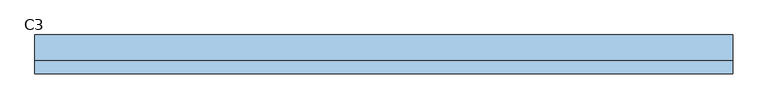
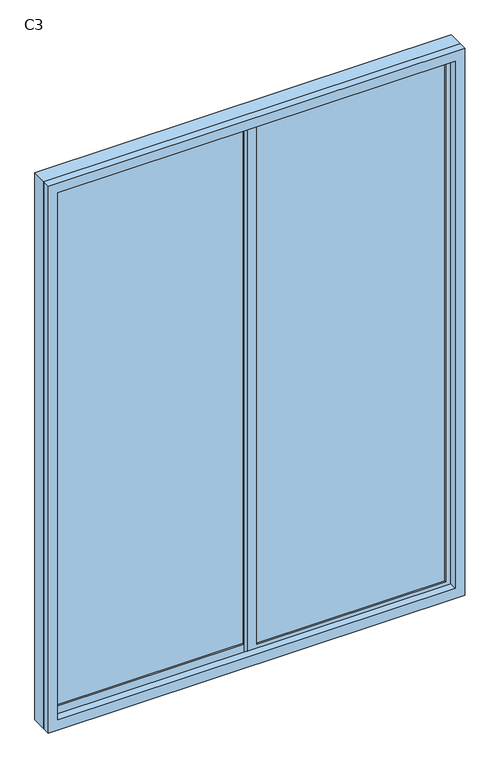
"""IFC4 building model written with IfcOpenShell, lengths in millimetres: window geometry, 推拉窗6 : C3."""

from ifc_helpers import new_model, si_unit, frame, origin, place, context, project, spatial, polyline, outline, extrude, source, transform, mapped, element, save


def c3_ac34c541(model_context):
    return source(origin(), model_context, "Body", "SweptSolid", [
        extrude(outline(polyline([(-995.475, -36.8734375), (-15.475, -36.8734375), (-15.475, -46.8734375), (-995.475, -46.8734375), (-995.475, -36.8734375)])), frame((0.0, 0.0, 75.0), z_axis=(0.0, 0.0, 1.0), x_axis=(1.0, 0.0, 0.0)), (0.0, 0.0, 1.0), 2850.0),
        extrude(outline(polyline([(34.525, -66.8734375), (1014.525, -66.8734375), (1014.525, -76.8734375), (34.525, -76.8734375), (34.525, -66.8734375)])), frame((0.0, 0.0, 75.0), z_axis=(0.0, 0.0, 1.0), x_axis=(1.0, 0.0, 0.0)), (0.0, 0.0, 1.0), 2850.0),
        extrude(outline(polyline([(3000.0, -1070.475), (0.0, -1070.475), (0.0, 1089.525), (3000.0, 1089.525), (3000.0, -1070.475)]), holes=[polyline([(2945.0, 1039.525), (55.0, 1039.525), (55.0, -1020.475), (2945.0, -1020.475), (2945.0, 1039.525)])]), frame((0.0, -126.8734375, 0.0), z_axis=(0.0, 1.0, 0.0), x_axis=(0.0, 0.0, 1.0)), (0.0, 0.0, 1.0), 40.0),
        extrude(outline(polyline([(25.0, 34.525), (2975.0, 34.525), (2975.0, -1045.475), (25.0, -1045.475), (25.0, 34.525)]), holes=[polyline([(75.0, -15.475), (75.0, -995.475), (2925.0, -995.475), (2925.0, -15.475), (75.0, -15.475)])]), frame((0.0, -56.8734375, 0.0), z_axis=(0.0, 1.0, 0.0), x_axis=(0.0, 0.0, 1.0)), (0.0, 0.0, 1.0), 30.0),
        extrude(outline(polyline([(2975.0, -15.475), (25.0, -15.475), (25.0, 1064.525), (2975.0, 1064.525), (2975.0, -15.475)]), holes=[polyline([(2925.0, 34.525), (2925.0, 1014.525), (75.0, 1014.525), (75.0, 34.525), (2925.0, 34.525)])]), frame((0.0, -86.8734375, 0.0), z_axis=(0.0, 1.0, 0.0), x_axis=(0.0, 0.0, 1.0)), (0.0, 0.0, 1.0), 30.0),
        extrude(outline(polyline([(3000.0, -1070.475), (0.0, -1070.475), (0.0, 1089.525), (3000.0, 1089.525), (3000.0, -1070.475)]), holes=[polyline([(25.0, -1045.475), (2975.0, -1045.475), (2975.0, 1064.525), (25.0, 1064.525), (25.0, -1045.475)])]), frame((0.0, -86.8734375, 0.0), z_axis=(0.0, 1.0, 0.0), x_axis=(0.0, 0.0, 1.0)), (0.0, 0.0, 1.0), 80.0),
    ])


if __name__ == "__main__":
    model = new_model("IFC4")
    model_context = context("Model", 3, world=origin())
    ifc_project = project(units=[si_unit("LENGTHUNIT", "METRE", prefix="MILLI")], contexts=[model_context])
    site = spatial("IfcSite", under=ifc_project)
    building = spatial("IfcBuilding", under=site)
    placement = place(None, origin())
    c3_shape = c3_ac34c541(model_context)
    element("IfcWindow", 1, ObjectType="推拉窗6 : C3", at=placement, inside=building, context=model_context, shape_type="MappedRepresentation", body=[
        mapped(c3_shape, transform((0.0, 0.0, 0.0), x_axis=(1.0, 0.0, 0.0), y_axis=(0.0, 1.0, 0.0), z_axis=(0.0, 0.0, 1.0))),
    ])
    save(model, "model.ifc")
